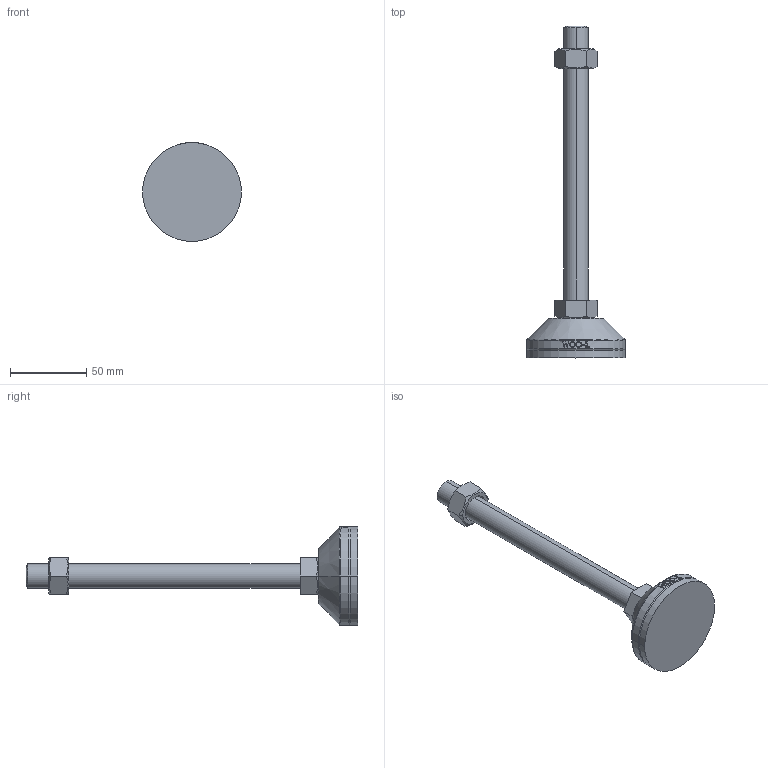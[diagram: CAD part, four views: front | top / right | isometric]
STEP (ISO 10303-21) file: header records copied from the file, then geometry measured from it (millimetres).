
FILE_DESCRIPTION (( 'STEP AP214' ), '1' );
FILE_NAME ('NHNR65-M16-180 (Æò).step', '2021-01-25T06:19:41', ( '' ), ( '' ), 'SwSTEP 2.0', 'SolidWorks 2019', '' );
FILE_SCHEMA (( 'AUTOMOTIVE_DESIGN' ));
Length unit declared in the file: millimetre
Products named in the file (2): NHNR65-M16-180 (ゎ)
Bounding box: 65 x 218 x 65 mm (x, y, z)
Volume: 114426.8 mm3; surface area: 29681.3 mm2
Topology: 4 solids, 4 shells, 100 faces, 229 edges, 146 vertices
Faces by surface type: plane 48, cylinder 16, bspline 16, cone 14, torus 6
Entity records: 4231 total; most frequent: CARTESIAN_POINT 2025, ORIENTED_EDGE 458, DIRECTION 401, EDGE_CURVE 229, AXIS2_PLACEMENT_3D 152, VERTEX_POINT 146, EDGE_LOOP 111, FACE_OUTER_BOUND 100
